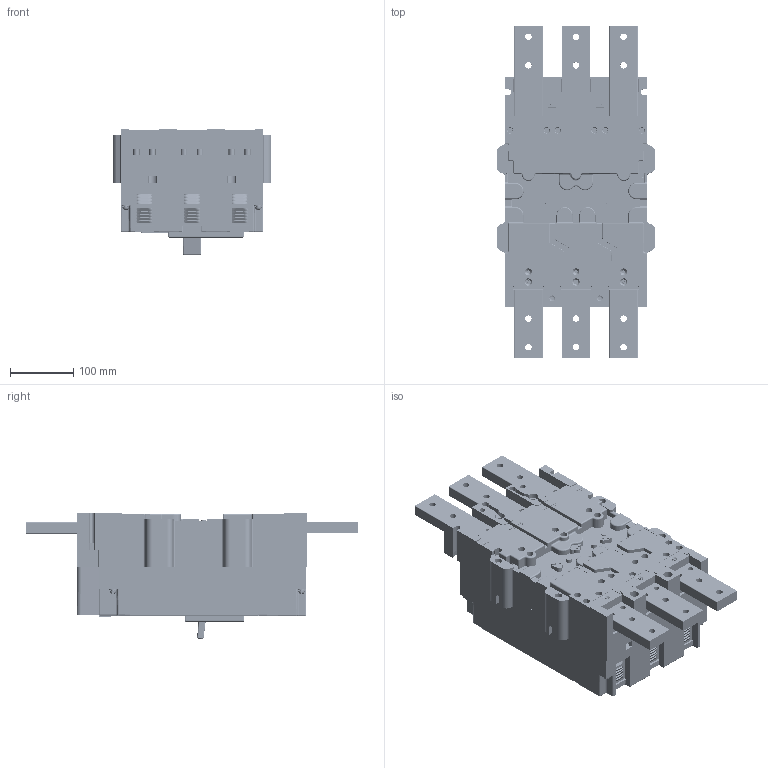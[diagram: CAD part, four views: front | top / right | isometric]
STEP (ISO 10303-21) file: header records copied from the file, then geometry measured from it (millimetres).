
FILE_DESCRIPTION (( 'STEP AP203' ), '1' );
FILE_NAME ('臍55-41.STEP', '2016-09-28T08:37:23', ( 'admin' ), ( '' ), 'SwSTEP 2.0', 'SolidWorks 2012', '' );
FILE_SCHEMA (( 'CONFIG_CONTROL_DESIGN' ));
Products named in the file (1): 臍55-41
Bounding box: 250 x 523 x 198.8 mm (x, y, z)
Volume: 11440665.4 mm3; surface area: 1304385.4 mm2
Topology: 183 solids, 185 shells, 20387 faces, 53505 edges, 34865 vertices
Faces by surface type: plane 12551, bspline 3977, cylinder 3156, cone 423, torus 227, sphere 53
Entity records: 816045 total; most frequent: CARTESIAN_POINT 338017, ORIENTED_EDGE 106880, DIRECTION 84011, EDGE_CURVE 53440, LINE 37201, VECTOR 37201, VERTEX_POINT 34865, AXIS2_PLACEMENT_3D 23405
